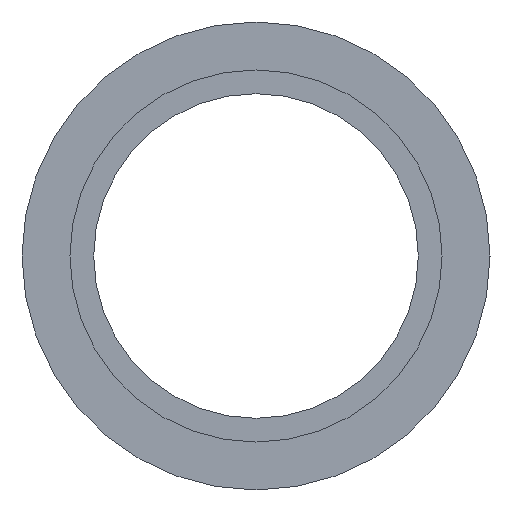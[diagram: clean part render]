
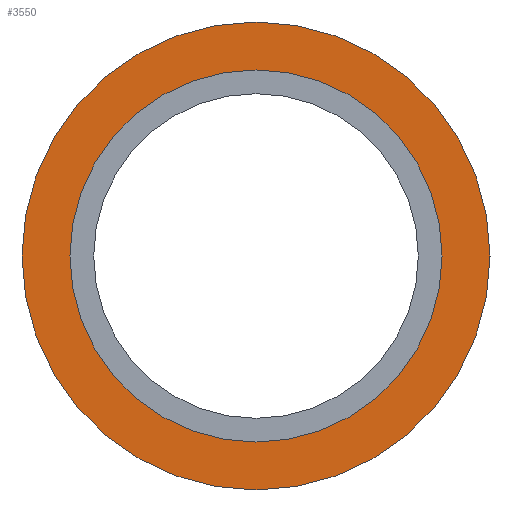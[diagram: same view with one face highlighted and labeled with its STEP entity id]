
A CAD part, left-side view. The second image highlights one B-rep face of the part: STEP entity #3550.
In plain terms, the highlighted planar face has unit normal (-1, 0, 0).
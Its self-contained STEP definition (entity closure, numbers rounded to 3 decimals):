
#2750=CARTESIAN_POINT('',(50.028,95.829,
0.));
#2760=VERTEX_POINT('',#2750);
#2840=CARTESIAN_POINT('',(50.028,33.829,
0.));
#2850=VERTEX_POINT('',#2840);
#2880=CARTESIAN_POINT('',(50.028,64.829,
0.));
#2890=DIRECTION('',(1.,0.,0.));
#2900=DIRECTION('',(0.,-1.,0.));
#2910=AXIS2_PLACEMENT_3D('',#2880,#2890,#2900);
#2920=CIRCLE('',#2910,31.);
#2930=EDGE_CURVE('',#2760,#2850,#2920,.T.);
#3300=CARTESIAN_POINT('',(50.028,94.129,
0.));
#3310=DIRECTION('',(1.,-0.,0.));
#3320=DIRECTION('',(0.,1.,0.));
#3330=AXIS2_PLACEMENT_3D('',#3300,#3310,#3320);
#3340=PLANE('',#3330);
#3350=CARTESIAN_POINT('',(50.028,64.829,0.));
#3360=DIRECTION('',(-1.,-0.,-0.));
#3370=DIRECTION('',(0.,1.,0.));
#3380=AXIS2_PLACEMENT_3D('',#3350,#3360,#3370);
#3390=CIRCLE('',#3380,24.65);
#3400=CARTESIAN_POINT('',(50.028,89.479,
0.));
#3410=VERTEX_POINT('',#3400);
#3420=CARTESIAN_POINT('',(50.028,40.179,
0.));
#3430=VERTEX_POINT('',#3420);
#3440=EDGE_CURVE('',#3410,#3430,#3390,.T.);
#3450=ORIENTED_EDGE('',*,*,#3440,.F.);
#3460=EDGE_CURVE('',#3430,#3410,#3390,.T.);
#3470=ORIENTED_EDGE('',*,*,#3460,.F.);
#3480=EDGE_LOOP('',(#3470,#3450));
#3490=FACE_BOUND('',#3480,.T.);
#3500=EDGE_CURVE('',#2850,#2760,#2920,.T.);
#3510=ORIENTED_EDGE('',*,*,#3500,.F.);
#3520=ORIENTED_EDGE('',*,*,#2930,.F.);
#3530=EDGE_LOOP('',(#3520,#3510));
#3540=FACE_OUTER_BOUND('',#3530,.T.);
#3550=ADVANCED_FACE('',(#3490,#3540),#3340,.F.);
